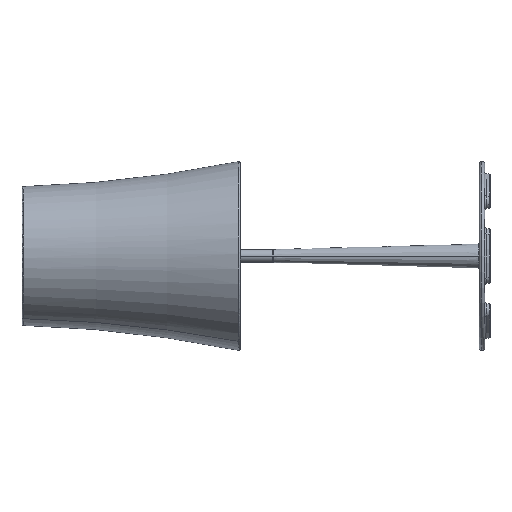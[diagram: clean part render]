
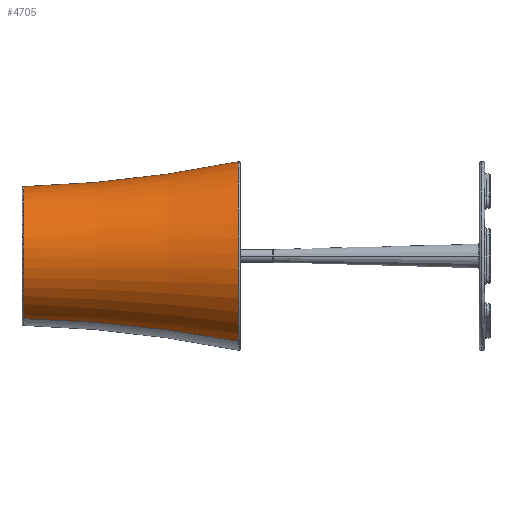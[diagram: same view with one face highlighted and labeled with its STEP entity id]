
A CAD part, left-side view. The second image highlights one B-rep face of the part: STEP entity #4705.
In plain terms, the highlighted toroidal (fillet/blend) face has major radius 1183.62 mm and minor radius 1120 mm.
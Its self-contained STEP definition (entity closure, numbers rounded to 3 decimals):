
#26 = CARTESIAN_POINT ( 'NONE',  ( -182.402, 261.399, 75.49 ) ) ;
#94 = VERTEX_POINT ( 'NONE', #2909 ) ;
#137 = CARTESIAN_POINT ( 'NONE',  ( -142.504, 459.435, 85.691 ) ) ;
#241 = CARTESIAN_POINT ( 'NONE',  ( -141.129, 459.435, -21.023 ) ) ;
#387 = AXIS2_PLACEMENT_3D ( 'NONE', #5935, #8364, #4926 ) ;
#410 = CARTESIAN_POINT ( 'NONE',  ( -165.135, 459.435, 7.472 ) ) ;
#480 = CARTESIAN_POINT ( 'NONE',  ( -143.711, 261.399, -45.902 ) ) ;
#562 = CARTESIAN_POINT ( 'NONE',  ( -143.711, 261.399, -45.902 ) ) ;
#698 = CARTESIAN_POINT ( 'NONE',  ( -107.29, 261.399, 120.166 ) ) ;
#745 = CARTESIAN_POINT ( 'NONE',  ( -140.641, 261.399, 113.084 ) ) ;
#853 = CARTESIAN_POINT ( 'NONE',  ( -145.833, 261.399, 110.65 ) ) ;
#858 = CARTESIAN_POINT ( 'NONE',  ( -106.991, 459.435, 96.965 ) ) ;
#964 = CARTESIAN_POINT ( 'NONE',  ( -119.495, 459.435, 95.571 ) ) ;
#1183 = CARTESIAN_POINT ( 'NONE',  ( -150.956, 459.435, -13.167 ) ) ;
#1419 = ORIENTED_EDGE ( 'NONE', *, *, #7106, .F. ) ;
#1537 = CARTESIAN_POINT ( 'NONE',  ( -162.915, 261.399, -33.65 ) ) ;
#1593 = CARTESIAN_POINT ( 'NONE',  ( -189.267, 261.399, 59.797 ) ) ;
#1606 = VERTEX_POINT ( 'NONE', #5275 ) ;
#1673 = CIRCLE ( 'NONE', #6471, 1120. ) ;
#1858 = CARTESIAN_POINT ( 'NONE',  ( -169.896, 459.435, 40.338 ) ) ;
#1912 = CIRCLE ( 'NONE', #7084, 1120. ) ;
#2137 = DIRECTION ( 'NONE',  ( -0.431, 0., -0.903 ) ) ;
#2173 = VERTEX_POINT ( 'NONE', #3318 ) ;
#2485 = CARTESIAN_POINT ( 'NONE',  ( -68.618, 261.399, 111.489 ) ) ;
#2491 = CARTESIAN_POINT ( 'NONE',  ( -94.456, 459.435, 95.893 ) ) ;
#2592 = CARTESIAN_POINT ( 'NONE',  ( -192.078, 261.399, 48.735 ) ) ;
#2701 = CARTESIAN_POINT ( 'NONE',  ( -165.768, 459.435, 56.587 ) ) ;
#2794 = DIRECTION ( 'NONE',  ( 0.431, 0., 0.903 ) ) ;
#2909 = CARTESIAN_POINT ( 'NONE',  ( -68.618, 261.399, 111.489 ) ) ;
#3218 = CARTESIAN_POINT ( 'NONE',  ( -155.642, 261.399, 104.816 ) ) ;
#3263 = CARTESIAN_POINT ( 'NONE',  ( -193.275, 261.399, 25.939 ) ) ;
#3318 = CARTESIAN_POINT ( 'NONE',  ( -133.741, 459.435, -25.005 ) ) ;
#3329 = CARTESIAN_POINT ( 'NONE',  ( -111.199, 459.435, 96.772 ) ) ;
#3379 = CARTESIAN_POINT ( 'NONE',  ( -131.486, 459.435, 91.764 ) ) ;
#3427 = CARTESIAN_POINT ( 'NONE',  ( -129.881, 261.399, 116.893 ) ) ;
#3484 = CARTESIAN_POINT ( 'NONE',  ( -78.588, 459.435, 90.592 ) ) ;
#3636 = CARTESIAN_POINT ( 'NONE',  ( -163.347, 459.435, 3.659 ) ) ;
#3741 = CARTESIAN_POINT ( 'NONE',  ( -159.062, 459.435, -3.546 ) ) ;
#3796 = CARTESIAN_POINT ( 'NONE',  ( -156.565, 459.435, -6.937 ) ) ;
#4027 = CARTESIAN_POINT ( 'NONE',  ( -179.438, 261.399, 80.399 ) ) ;
#4081 = CARTESIAN_POINT ( 'NONE',  ( -174.787, 261.399, -21.302 ) ) ;
#4190 = CARTESIAN_POINT ( 'NONE',  ( -123.584, 459.435, 94.561 ) ) ;
#4233 = CARTESIAN_POINT ( 'NONE',  ( -191.639, 261.399, 14.644 ) ) ;
#4238 = CARTESIAN_POINT ( 'NONE',  ( -167.2, 459.435, 52.626 ) ) ;
#4282 = VERTEX_POINT ( 'NONE', #562 ) ;
#4394 = CARTESIAN_POINT ( 'NONE',  ( -137.524, 459.435, -23.2 ) ) ;
#4705 = ADVANCED_FACE ( 'NONE', ( #7621 ), #8752, .F. ) ;
#4910 = CARTESIAN_POINT ( 'NONE',  ( -184.021, 261.399, -6.875 ) ) ;
#4926 = DIRECTION ( 'NONE',  ( -0.431, 0., -0.903 ) ) ;
#4961 = CARTESIAN_POINT ( 'NONE',  ( -95.893, 261.399, 119.567 ) ) ;
#5040 = CARTESIAN_POINT ( 'NONE',  ( -615.847, 489.96, -1035.471 ) ) ;
#5074 = CARTESIAN_POINT ( 'NONE',  ( -168.742, 261.399, 93.779 ) ) ;
#5079 = CARTESIAN_POINT ( 'NONE',  ( -82.371, 459.435, 92.397 ) ) ;
#5131 = CARTESIAN_POINT ( 'NONE',  ( -153.77, 261.399, -40.48 ) ) ;
#5187 = CARTESIAN_POINT ( 'NONE',  ( -86.332, 459.435, 93.829 ) ) ;
#5244 = CARTESIAN_POINT ( 'NONE',  ( -170.336, 459.435, 31.966 ) ) ;
#5275 = CARTESIAN_POINT ( 'NONE',  ( -78.588, 459.435, 90.592 ) ) ;
#5300 = CARTESIAN_POINT ( 'NONE',  ( -147.845, 459.435, -16.006 ) ) ;
#5476 = CARTESIAN_POINT ( 'NONE',  ( -168.942, 459.435, 19.463 ) ) ;
#5537 = CARTESIAN_POINT ( 'NONE',  ( -167.932, 459.435, 15.374 ) ) ;
#5813 = CARTESIAN_POINT ( 'NONE',  ( -79.161, 261.399, 115.896 ) ) ;
#5864 = CARTESIAN_POINT ( 'NONE',  ( -98.62, 459.435, 96.525 ) ) ;
#5913 = CARTESIAN_POINT ( 'NONE',  ( -193.537, 261.399, 31.668 ) ) ;
#5935 = CARTESIAN_POINT ( 'NONE',  ( -106.165, 489.96, 32.793 ) ) ;
#6095 = CARTESIAN_POINT ( 'NONE',  ( -159.981, 459.435, 67.758 ) ) ;
#6233 = EDGE_LOOP ( 'NONE', ( #1419, #10251, #7571, #8464 ) ) ;
#6245 = CARTESIAN_POINT ( 'NONE',  ( 403.518, 489.96, 1101.058 ) ) ;
#6470 = DIRECTION ( 'NONE',  ( 0.903, 0., -0.431 ) ) ;
#6471 = AXIS2_PLACEMENT_3D ( 'NONE', #6245, #7021, #2794 ) ;
#6554 = B_SPLINE_CURVE_WITH_KNOTS ( 'NONE', 3,
 ( #3484, #5079, #5187, #2491, #5864, #858, #3329, #964, #4190, #3379, #7777, #137, #8501, #6760, #6927, #6095, #10965, #2701, #4238, #9486, #1858, #5244, #7662, #5476, #5537, #410, #3636, #3741, #3796, #1183, #5300, #241, #4394, #8886 ),
 .UNSPECIFIED., .F., .F.,
 ( 4, 2, 2, 2, 2, 2, 2, 2, 2, 2, 2, 2, 2, 2, 2, 2, 4 ),
 ( 0., 0.031, 0.062, 0.094, 0.125, 0.156, 0.187, 0.219, 0.25, 0.281, 0.312, 0.344, 0.375, 0.406, 0.437, 0.469, 0.5 ),
 .UNSPECIFIED. ) ;
#6655 = CARTESIAN_POINT ( 'NONE',  ( -73.769, 261.399, 113.946 ) ) ;
#6755 = CARTESIAN_POINT ( 'NONE',  ( -167.15, 261.399, -29.785 ) ) ;
#6760 = CARTESIAN_POINT ( 'NONE',  ( -152.125, 459.435, 77.585 ) ) ;
#6808 = CARTESIAN_POINT ( 'NONE',  ( -124.314, 261.399, 118.267 ) ) ;
#6858 = B_SPLINE_CURVE_WITH_KNOTS ( 'NONE', 3,
 ( #480, #9272, #5131, #1537, #6755, #4081, #7552, #4910, #10147, #7498, #4233, #3263, #5913, #9326, #2592, #1593, #7657, #26, #4027, #7448, #5074, #8495, #3218, #853, #745, #3427, #6808, #10202, #698, #4961, #10865, #5813, #6655, #2485 ),
 .UNSPECIFIED., .F., .F.,
 ( 4, 2, 2, 2, 2, 2, 2, 2, 2, 2, 2, 2, 2, 2, 2, 2, 4 ),
 ( 0.5, 0.531, 0.563, 0.594, 0.625, 0.656, 0.688, 0.719, 0.75, 0.781, 0.813, 0.844, 0.875, 0.906, 0.938, 0.969, 1. ),
 .UNSPECIFIED. ) ;
#6927 = CARTESIAN_POINT ( 'NONE',  ( -154.964, 459.435, 74.474 ) ) ;
#7021 = DIRECTION ( 'NONE',  ( -0.903, 0., 0.431 ) ) ;
#7084 = AXIS2_PLACEMENT_3D ( 'NONE', #5040, #6470, #2137 ) ;
#7106 = EDGE_CURVE ( 'NONE', #1606, #94, #1673, .T. ) ;
#7448 = CARTESIAN_POINT ( 'NONE',  ( -172.608, 261.399, 89.543 ) ) ;
#7498 = CARTESIAN_POINT ( 'NONE',  ( -190.264, 261.399, 9.076 ) ) ;
#7552 = CARTESIAN_POINT ( 'NONE',  ( -178.187, 261.399, -16.684 ) ) ;
#7571 = ORIENTED_EDGE ( 'NONE', *, *, #10567, .T. ) ;
#7621 = FACE_OUTER_BOUND ( 'NONE', #6233, .T. ) ;
#7657 = CARTESIAN_POINT ( 'NONE',  ( -187.317, 261.399, 65.189 ) ) ;
#7662 = CARTESIAN_POINT ( 'NONE',  ( -170.144, 459.435, 27.759 ) ) ;
#7777 = CARTESIAN_POINT ( 'NONE',  ( -135.299, 459.435, 89.976 ) ) ;
#8215 = EDGE_CURVE ( 'NONE', #4282, #94, #6858, .T. ) ;
#8364 = DIRECTION ( 'NONE',  ( 0., 1., 0. ) ) ;
#8464 = ORIENTED_EDGE ( 'NONE', *, *, #8215, .T. ) ;
#8495 = CARTESIAN_POINT ( 'NONE',  ( -160.26, 261.399, 101.415 ) ) ;
#8501 = CARTESIAN_POINT ( 'NONE',  ( -145.895, 459.435, 83.193 ) ) ;
#8752 = TOROIDAL_SURFACE ( 'NONE', #387, 1183.624, 1120. ) ;
#8886 = CARTESIAN_POINT ( 'NONE',  ( -133.741, 459.435, -25.005 ) ) ;
#9272 = CARTESIAN_POINT ( 'NONE',  ( -148.862, 261.399, -43.444 ) ) ;
#9326 = CARTESIAN_POINT ( 'NONE',  ( -192.939, 261.399, 43.065 ) ) ;
#9486 = CARTESIAN_POINT ( 'NONE',  ( -169.264, 459.435, 44.502 ) ) ;
#9691 = EDGE_CURVE ( 'NONE', #1606, #2173, #6554, .T. ) ;
#10147 = CARTESIAN_POINT ( 'NONE',  ( -186.456, 261.399, -1.683 ) ) ;
#10202 = CARTESIAN_POINT ( 'NONE',  ( -113.019, 261.399, 119.904 ) ) ;
#10251 = ORIENTED_EDGE ( 'NONE', *, *, #9691, .T. ) ;
#10567 = EDGE_CURVE ( 'NONE', #2173, #4282, #1912, .T. ) ;
#10865 = CARTESIAN_POINT ( 'NONE',  ( -90.223, 261.399, 118.707 ) ) ;
#10965 = CARTESIAN_POINT ( 'NONE',  ( -162.158, 459.435, 64.153 ) ) ;
